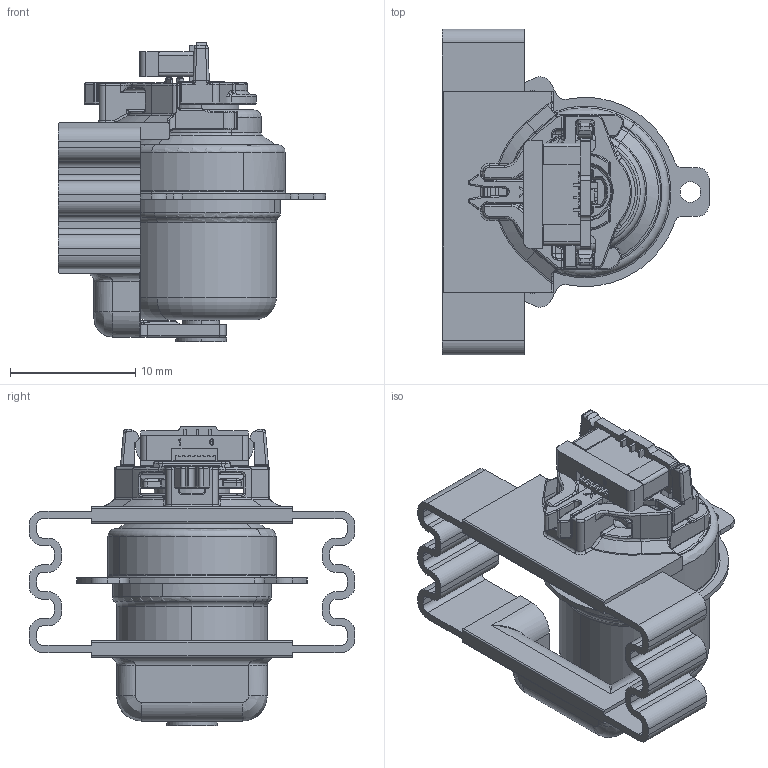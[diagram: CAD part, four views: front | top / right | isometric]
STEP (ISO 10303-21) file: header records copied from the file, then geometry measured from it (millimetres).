
FILE_DESCRIPTION(('Creo Elements/Direct Modeling STEP Export'),'2;1');
FILE_NAME('2022-09-27_Confidential_Aussengeometrie_Core01_mit_Sensorik.stp','2022-11-23T15:09:11',(''),(''),'Creo Elements/Direct Modeling STEP processor for AP214 (Solid Model)','Creo Elements/Direct Modeling 20.2C 11-Nov-2020 (C) Parametric Technology GmbH','');
FILE_SCHEMA(('AUTOMOTIVE_DESIGN { 1 0 10303 214 1 1 1 1 }'));
Products named in the file (6): PCBA; Sleeve; Magnetic_Ring; Stator; Cradle; 2022-09-27_Confidential_Aussengeometrie_Core01_mit_Sensorik
Assembly tree (5 placements, depth 2):
  2022-09-27_Confidential_Aussengeometrie_Core01_mit_Sensorik
    Cradle
    Stator
    Magnetic_Ring
    Sleeve
    PCBA
Bounding box: 21.34 x 26 x 23.9 mm (x, y, z)
Volume: 2809 mm3; surface area: 4826.5 mm2
Topology: 5 solids, 6 shells, 2518 faces, 6561 edges, 4050 vertices
Faces by surface type: plane 864, cylinder 798, bspline 524, torus 221, sphere 68, cone 43
Entity records: 135785 total; most frequent: CARTESIAN_POINT 69782, ORIENTED_EDGE 12914, DIRECTION 10548, EDGE_CURVE 6457, VERTEX_POINT 4050, AXIS2_PLACEMENT_3D 3670, VECTOR 3208, LINE 3208
